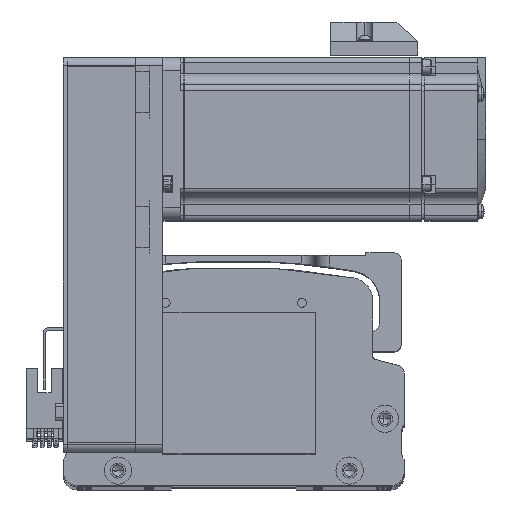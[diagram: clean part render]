
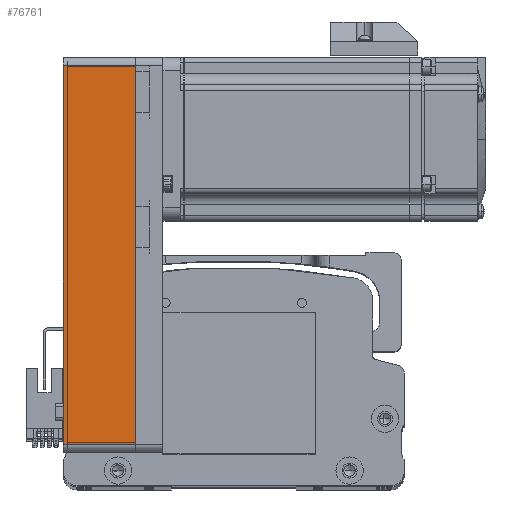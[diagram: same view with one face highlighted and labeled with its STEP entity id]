
A CAD part, top view. The second image highlights one B-rep face of the part: STEP entity #76761.
In plain terms, the highlighted planar face has unit normal (0, 0, 1) as drawn and (0, -1, 0) by its records, which use the part's own axes.
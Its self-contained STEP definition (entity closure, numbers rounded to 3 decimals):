
#865 = VERTEX_POINT ( 'NONE', #67044 ) ;
#4218 = CARTESIAN_POINT ( 'NONE',  ( 69.5, -30., 0. ) ) ;
#10131 = VECTOR ( 'NONE', #30868, 1000. ) ;
#12335 = EDGE_CURVE ( 'NONE', #865, #17505, #54483, .T. ) ;
#14301 = FACE_OUTER_BOUND ( 'NONE', #70807, .T. ) ;
#14820 = CARTESIAN_POINT ( 'NONE',  ( 72.5, -30., 0. ) ) ;
#17077 = CARTESIAN_POINT ( 'NONE',  ( 72.5, -30., 26.5 ) ) ;
#17505 = VERTEX_POINT ( 'NONE', #20903 ) ;
#20472 = AXIS2_PLACEMENT_3D ( 'NONE', #17077, #61280, #23473 ) ;
#20903 = CARTESIAN_POINT ( 'NONE',  ( 69.5, -30., 26.5 ) ) ;
#23129 = ORIENTED_EDGE ( 'NONE', *, *, #12335, .F. ) ;
#23473 = DIRECTION ( 'NONE',  ( -1., 0., 0. ) ) ;
#25657 = EDGE_CURVE ( 'NONE', #30180, #46043, #77431, .T. ) ;
#27079 = VECTOR ( 'NONE', #58990, 1000. ) ;
#27138 = ORIENTED_EDGE ( 'NONE', *, *, #25657, .T. ) ;
#28658 = VECTOR ( 'NONE', #72438, 1000. ) ;
#30180 = VERTEX_POINT ( 'NONE', #79298 ) ;
#30868 = DIRECTION ( 'NONE',  ( 0., 0., 1. ) ) ;
#35713 = VECTOR ( 'NONE', #75758, 1000. ) ;
#44003 = CARTESIAN_POINT ( 'NONE',  ( 72.5, -30., 26.5 ) ) ;
#45731 = LINE ( 'NONE', #49586, #10131 ) ;
#46043 = VERTEX_POINT ( 'NONE', #4218 ) ;
#49586 = CARTESIAN_POINT ( 'NONE',  ( 69.5, -30., 26.5 ) ) ;
#50177 = ORIENTED_EDGE ( 'NONE', *, *, #53823, .T. ) ;
#51801 = ORIENTED_EDGE ( 'NONE', *, *, #71251, .T. ) ;
#53823 = EDGE_CURVE ( 'NONE', #46043, #17505, #45731, .T. ) ;
#54483 = LINE ( 'NONE', #44003, #35713 ) ;
#54913 = PLANE ( 'NONE',  #20472 ) ;
#58990 = DIRECTION ( 'NONE',  ( 1., 0., 0. ) ) ;
#59697 = CARTESIAN_POINT ( 'NONE',  ( -69.5, -30., 26.5 ) ) ;
#61280 = DIRECTION ( 'NONE',  ( 0., 1., 0. ) ) ;
#62221 = LINE ( 'NONE', #59697, #28658 ) ;
#67044 = CARTESIAN_POINT ( 'NONE',  ( -69.5, -30., 26.5 ) ) ;
#70807 = EDGE_LOOP ( 'NONE', ( #27138, #50177, #23129, #51801 ) ) ;
#71251 = EDGE_CURVE ( 'NONE', #865, #30180, #62221, .T. ) ;
#72438 = DIRECTION ( 'NONE',  ( 0., 0., -1. ) ) ;
#75758 = DIRECTION ( 'NONE',  ( 1., 0., 0. ) ) ;
#76761 = ADVANCED_FACE ( 'NONE', ( #14301 ), #54913, .F. ) ;
#77431 = LINE ( 'NONE', #14820, #27079 ) ;
#79298 = CARTESIAN_POINT ( 'NONE',  ( -69.5, -30., 0. ) ) ;
